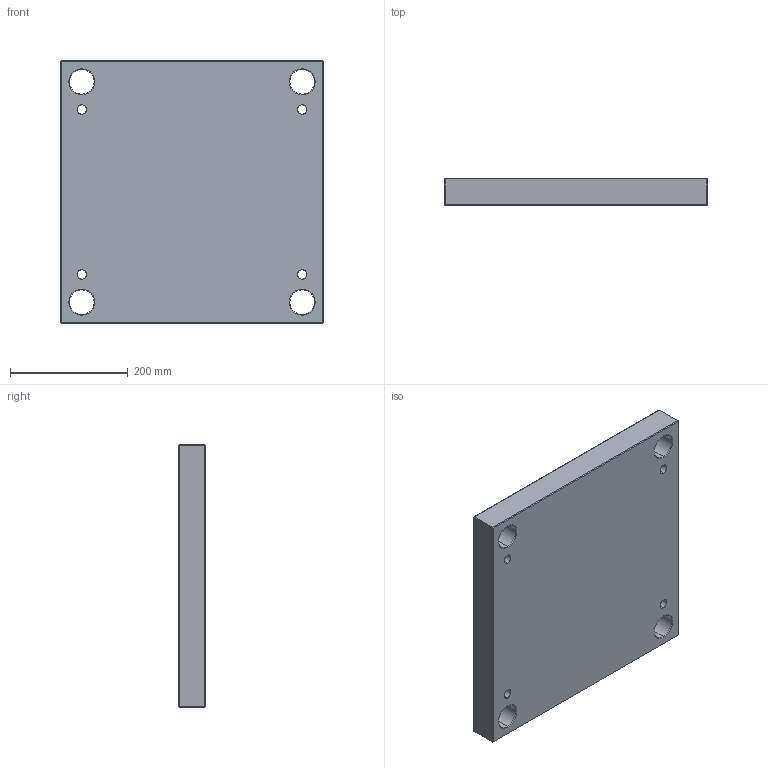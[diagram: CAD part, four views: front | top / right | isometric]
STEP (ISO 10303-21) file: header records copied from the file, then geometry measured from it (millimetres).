
FILE_DESCRIPTION (( 'STEP AP214' ), '1' );
FILE_NAME ('PS-EU-446x446x46.STEP', '2021-02-17T16:26:33', ( '' ), ( '' ), 'SwSTEP 2.0', 'SolidWorks 2018', '' );
FILE_SCHEMA (( 'AUTOMOTIVE_DESIGN' ));
Length unit declared in the file: millimetre
Products named in the file (1): PS-EU-446x446x46
Bounding box: 446 x 46 x 446 mm (x, y, z)
Volume: 8832061.9 mm3; surface area: 500184.2 mm2
Topology: 1 solids, 1 shells, 70 faces, 152 edges, 88 vertices
Faces by surface type: plane 30, cylinder 24, cone 16
Entity records: 1946 total; most frequent: DIRECTION 358, CARTESIAN_POINT 311, ORIENTED_EDGE 304, EDGE_CURVE 152, AXIS2_PLACEMENT_3D 135, EDGE_LOOP 90, VECTOR 88, LINE 88
